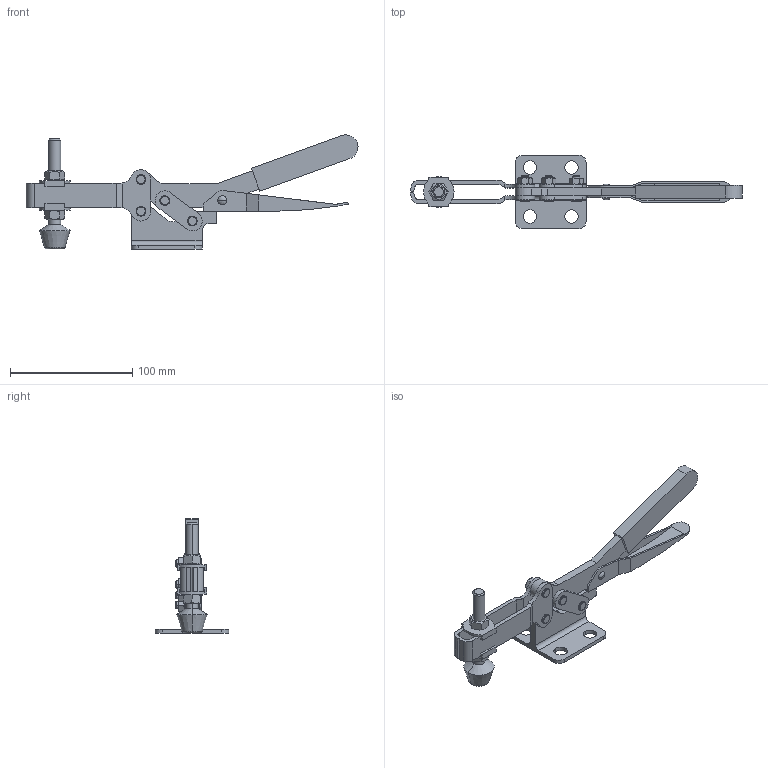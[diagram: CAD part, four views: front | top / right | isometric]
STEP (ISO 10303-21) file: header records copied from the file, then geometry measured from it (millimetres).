
FILE_DESCRIPTION(('CATIA V5 STEP Exchange'),'2;1');
FILE_NAME('D:\Model\toggle\toggle_standard\KJF_030_21F.stp','2005-06-24T02:58:02+00:00',('none'),('none'),'CATIA Version 5 Release 11 (IN-9)','CATIA V5 STEP AP203',' none');
FILE_SCHEMA(('CONFIG_CONTROL_DESIGN'));
Length unit declared in the file: millimetre
Products named in the file (1): Part1
Bounding box: 271.5 x 60 x 93.5 mm (x, y, z)
Volume: 98288.6 mm3; surface area: 56271.3 mm2
Topology: 21 solids, 21 shells, 342 faces, 869 edges, 572 vertices
Faces by surface type: plane 169, cone 90, cylinder 76, sphere 4, torus 2, bspline 1
Entity records: 10569 total; most frequent: CARTESIAN_POINT 2975, ORIENTED_EDGE 1730, DIRECTION 1204, EDGE_CURVE 865, VERTEX_POINT 572, AXIS2_PLACEMENT_3D 507, VECTOR 448, LINE 448
